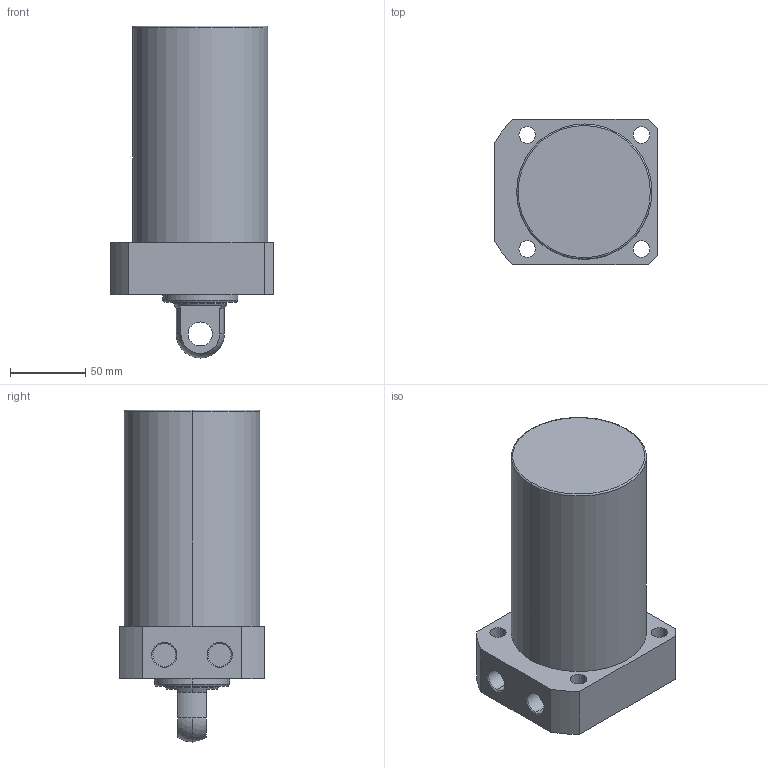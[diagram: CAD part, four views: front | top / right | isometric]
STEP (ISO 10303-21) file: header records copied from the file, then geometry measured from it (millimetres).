
FILE_DESCRIPTION (( 'STEP AP203' ), '1' );
FILE_NAME ('CLLR-090CP-100.STEP', '2019-12-18T06:53:28', ( '' ), ( '' ), 'SwSTEP 2.0', 'SolidWorks 2015', '' );
FILE_SCHEMA (( 'CONFIG_CONTROL_DESIGN' ));
Length unit declared in the file: millimetre
Products named in the file (1): CLLR-090CP-100
Bounding box: 108 x 97 x 221 mm (x, y, z)
Volume: 1280258.8 mm3; surface area: 84780.8 mm2
Topology: 1 solids, 1 shells, 59 faces, 139 edges, 89 vertices
Faces by surface type: cylinder 29, plane 18, cone 8, sphere 2, torus 2
Entity records: 1822 total; most frequent: DIRECTION 331, CARTESIAN_POINT 300, ORIENTED_EDGE 278, EDGE_CURVE 139, AXIS2_PLACEMENT_3D 136, VERTEX_POINT 89, CIRCLE 76, EDGE_LOOP 76
